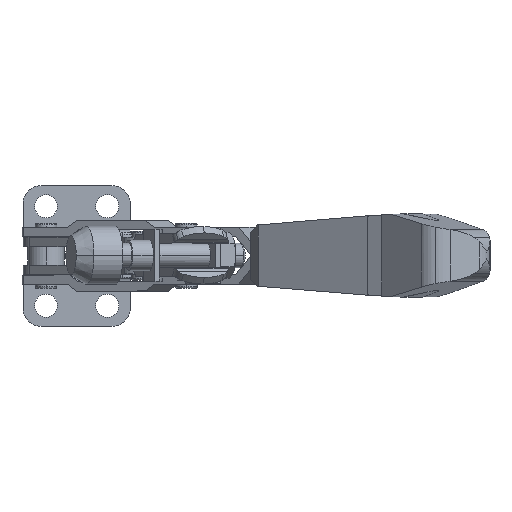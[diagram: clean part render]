
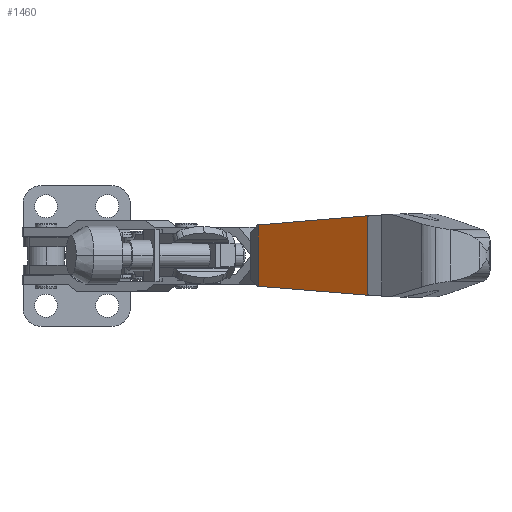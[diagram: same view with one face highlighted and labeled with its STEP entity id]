
A CAD part, top view. The second image highlights one B-rep face of the part: STEP entity #1460.
In plain terms, the highlighted planar face has unit normal (-0.531, 0, 0.848).
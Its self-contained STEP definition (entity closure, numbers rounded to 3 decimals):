
#1460=ADVANCED_FACE('NONE',(#2925),#2926,.F.);
#2925=FACE_OUTER_BOUND('',#4475,.T.);
#2926=PLANE('',#4476);
#4475=EDGE_LOOP('',(#8038,#8039,#8040,#8041));
#4476=AXIS2_PLACEMENT_3D('',#8042,#8043,#8044);
#8038=ORIENTED_EDGE('',*,*,#10611,.T.);
#8039=ORIENTED_EDGE('',*,*,#10549,.T.);
#8040=ORIENTED_EDGE('',*,*,#10582,.F.);
#8041=ORIENTED_EDGE('',*,*,#10472,.T.);
#8042=CARTESIAN_POINT('',(59.262,15.5,75.156));
#8043=DIRECTION('',(0.531,0.0,-0.848));
#8044=DIRECTION('',(0.0,1.0,0.0));
#10472=EDGE_CURVE('NONE',#12740,#12738,#12741,.T.);
#10549=EDGE_CURVE('NONE',#12852,#12850,#12853,.T.);
#10582=EDGE_CURVE('NONE',#12740,#12850,#12894,.T.);
#10611=EDGE_CURVE('NONE',#12738,#12852,#12926,.T.);
#12738=VERTEX_POINT('NONE',#16370);
#12740=VERTEX_POINT('NONE',#16373);
#12741=LINE('',#16374,#16375);
#12850=VERTEX_POINT('NONE',#16696);
#12852=VERTEX_POINT('NONE',#16699);
#12853=LINE('',#16700,#16701);
#12894=LINE('',#16808,#16809);
#12926=LINE('',#16910,#16911);
#16370=CARTESIAN_POINT('',(59.262,10.012,75.156));
#16373=CARTESIAN_POINT('',(94.929,12.954,97.484));
#16374=CARTESIAN_POINT('',(59.585,10.039,75.358));
#16375=VECTOR('',#19540,1000.0);
#16696=CARTESIAN_POINT('',(94.929,-12.954,97.484));
#16699=CARTESIAN_POINT('',(59.262,-10.012,75.156));
#16700=CARTESIAN_POINT('',(57.757,-9.888,74.214));
#16701=VECTOR('',#19584,1000.0);
#16808=CARTESIAN_POINT('',(94.929,15.5,97.484));
#16809=VECTOR('',#19601,1000.0);
#16910=CARTESIAN_POINT('',(59.262,15.5,75.156));
#16911=VECTOR('',#19611,1000.0);
#19540=DIRECTION('',(-0.846,-0.07,-0.529));
#19584=DIRECTION('',(0.846,-0.07,0.529));
#19601=DIRECTION('',(0.0,-1.0,0.0));
#19611=DIRECTION('',(0.0,-1.0,0.0));
